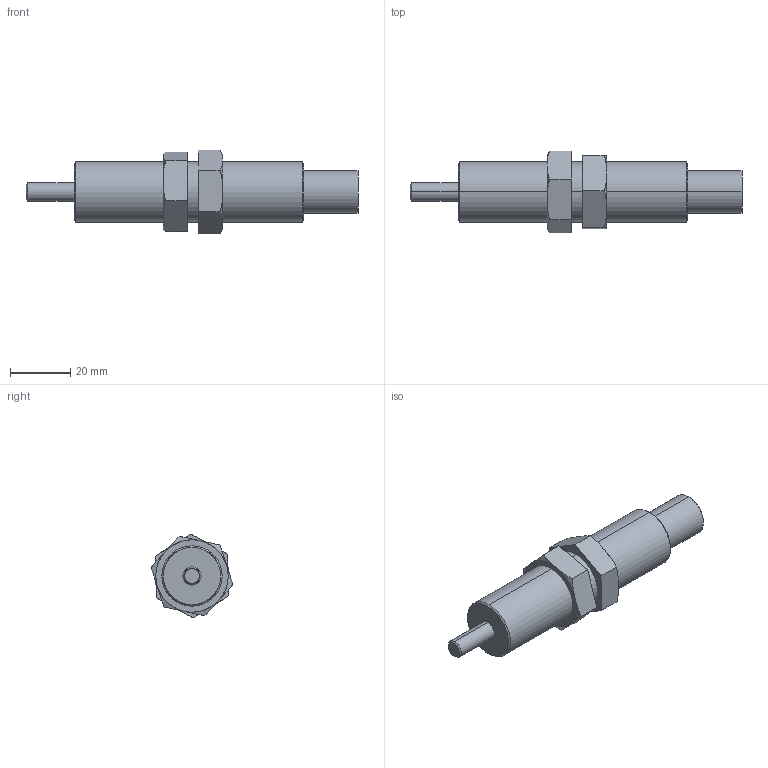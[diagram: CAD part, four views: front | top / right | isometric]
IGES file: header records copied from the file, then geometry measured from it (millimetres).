
Start section: SolidWorks IGES file using analytic representation for surfaces
Global section: file name: C:\Users\Sam Lin\Desktop\48\FSA-2016BB(CC)(CD).IGS; native system: SolidWorks 2013; preprocessor: SolidWorks 2013; author: Sam Lin; date: 160317.153123; units: metre
Bounding box: 110 x 27.11 x 27.7 mm (x, y, z)
Surface area: 9603.6 mm2 (no closed solid volume)
Topology: 0 solids, 0 shells, 48 faces, 732 edges, 732 vertices
Faces by surface type: bspline 32, revolution 16
